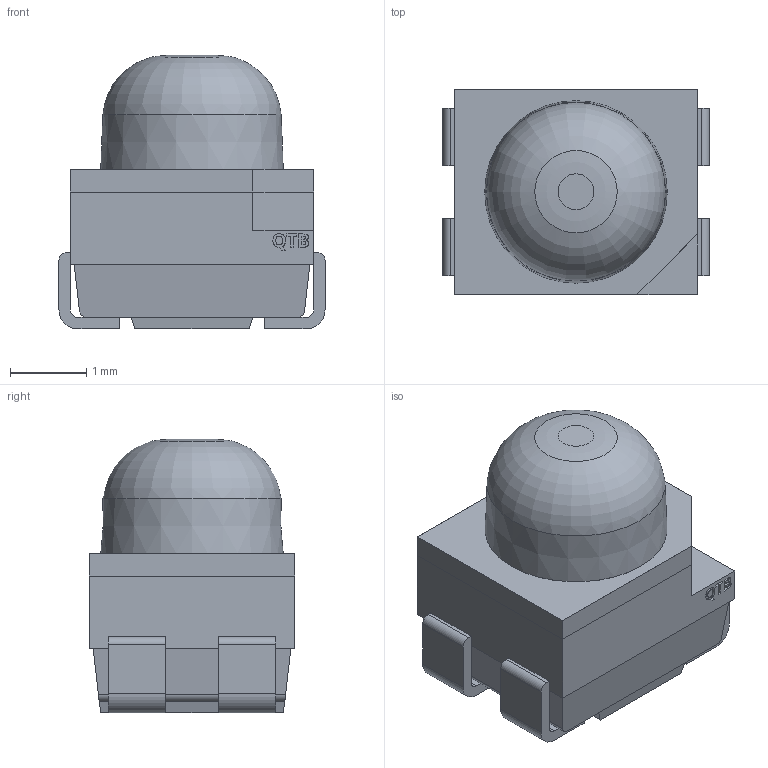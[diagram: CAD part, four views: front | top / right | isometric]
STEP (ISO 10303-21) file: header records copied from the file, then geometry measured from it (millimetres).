
FILE_DESCRIPTION(/* description */ (''),/* implementation_level */ '2;1');
FILE_NAME(/* name */ '5fab11f9ec18cb0e88eac7cd',/* time_stamp */ '2020-11-10T22:19:37+00:00',/* author */ (''),/* organization */ (''),/* preprocessor_version */ 'ST-DEVELOPER v16.7',/* originating_system */ $,/* authorisation */ $);
FILE_SCHEMA (('AUTOMOTIVE_DESIGN {1 0 10303 214 3 1 1}'));
Length unit declared in the file: metre
Products named in the file (6): QBLP677AD & BD (Black Face); Part 5; Part 2; Part 4; Part 3; Part 1
Assembly tree (5 placements, depth 2):
  QBLP677AD & BD (Black Face)
    Part 5
    Part 2
    Part 4
    Part 3
    Part 1
Bounding box: 3.5 x 2.7 x 3.6 mm (x, y, z)
Volume: 22.7 mm3; surface area: 110.2 mm2
Topology: 5 solids, 5 shells, 157 faces, 413 edges, 269 vertices
Faces by surface type: plane 105, bspline 29, cylinder 18, cone 3, torus 2
Full cylindrical faces by diameter (mm): 0.4 x1, 1 x1, 2.4 x2
Entity records: 4999 total; most frequent: CARTESIAN_POINT 1153, ORIENTED_EDGE 806, DIRECTION 659, EDGE_CURVE 403, LINE 299, VECTOR 299, VERTEX_POINT 268, AXIS2_PLACEMENT_3D 180
